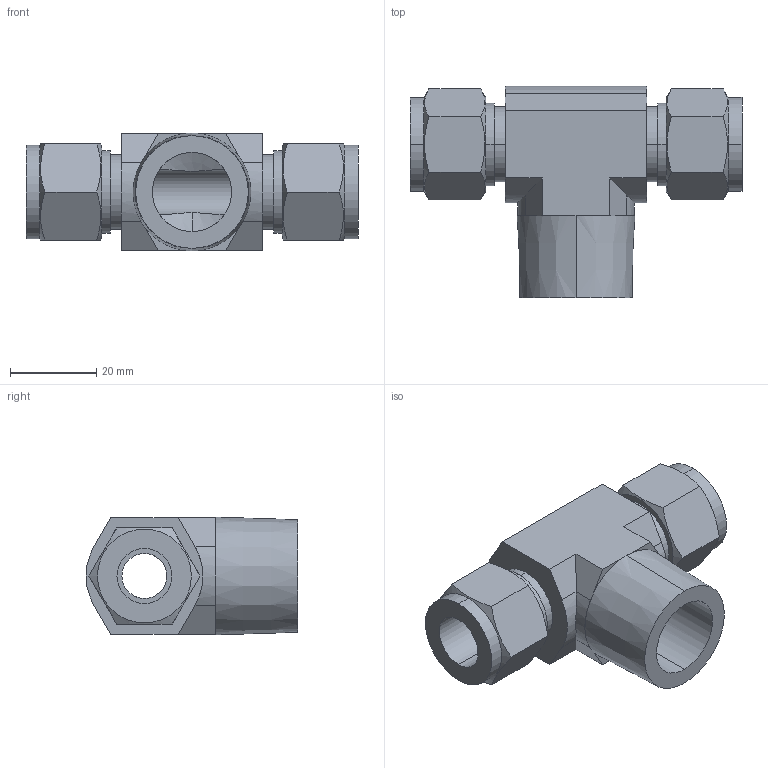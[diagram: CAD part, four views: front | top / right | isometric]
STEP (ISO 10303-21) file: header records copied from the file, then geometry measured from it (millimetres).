
FILE_DESCRIPTION (( 'STEP AP203' ), '1' );
FILE_NAME ('DTN 08-12 SS.STEP', '2009-09-08T10:09:45', ( 'Your User Name' ), ( 'Your Company Name' ), 'SwSTEP 2.0', 'SolidWorks 2008', '' );
FILE_SCHEMA (( 'CONFIG_CONTROL_DESIGN' ));
Length unit declared in the file: millimetre
Products named in the file (1): DTN 08-12 SS
Bounding box: 76.8 x 49 x 27.25 mm (x, y, z)
Volume: 33353.7 mm3; surface area: 14217.9 mm2
Topology: 1 solids, 1 shells, 82 faces, 198 edges, 125 vertices
Faces by surface type: plane 43, cylinder 26, cone 13
Entity records: 2786 total; most frequent: CARTESIAN_POINT 809, ORIENTED_EDGE 396, DIRECTION 389, EDGE_CURVE 198, AXIS2_PLACEMENT_3D 147, VERTEX_POINT 125, LINE 95, VECTOR 95
